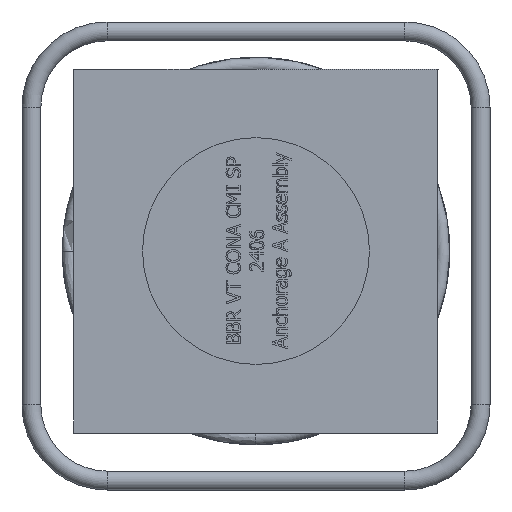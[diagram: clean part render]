
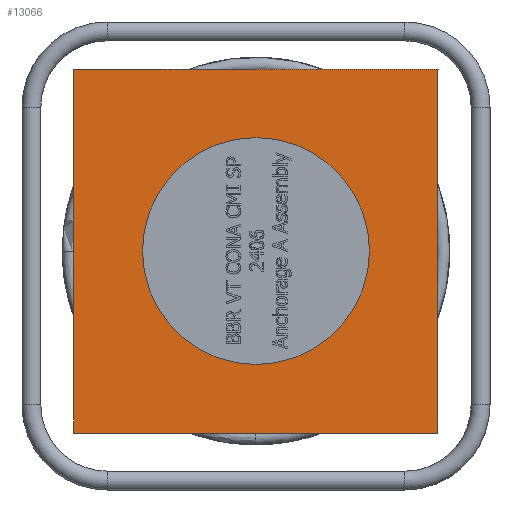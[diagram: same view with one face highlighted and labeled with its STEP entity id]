
A CAD part, left-side view. The second image highlights one B-rep face of the part: STEP entity #13066.
In plain terms, the highlighted planar face has unit normal (-1, 0, 0).
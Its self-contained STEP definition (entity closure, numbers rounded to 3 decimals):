
#1959=LINE('',#26864,#3031);
#1963=LINE('',#26871,#3035);
#1966=LINE('',#26876,#3038);
#1969=LINE('',#26880,#3041);
#3031=VECTOR('',#15571,385.);
#3035=VECTOR('',#15577,385.);
#3038=VECTOR('',#15582,385.);
#3041=VECTOR('',#15587,385.);
#3362=PLANE('',#13557);
#3537=FACE_BOUND('',#5060,.T.);
#4235=FACE_OUTER_BOUND('',#5059,.T.);
#5059=EDGE_LOOP('',(#11592,#11593,#11594,#11595));
#5060=EDGE_LOOP('',(#11596));
#5152=CIRCLE('',#13519,120.);
#6335=VERTEX_POINT('',#22957);
#6360=VERTEX_POINT('',#26862);
#6361=VERTEX_POINT('',#26863);
#6363=VERTEX_POINT('',#26870);
#6364=VERTEX_POINT('',#26875);
#8076=EDGE_CURVE('',#6335,#6335,#5152,.T.);
#8103=EDGE_CURVE('',#6360,#6361,#1959,.T.);
#8107=EDGE_CURVE('',#6361,#6363,#1963,.T.);
#8110=EDGE_CURVE('',#6363,#6364,#1966,.T.);
#8113=EDGE_CURVE('',#6364,#6360,#1969,.T.);
#11592=ORIENTED_EDGE('',*,*,#8113,.T.);
#11593=ORIENTED_EDGE('',*,*,#8103,.T.);
#11594=ORIENTED_EDGE('',*,*,#8107,.T.);
#11595=ORIENTED_EDGE('',*,*,#8110,.T.);
#11596=ORIENTED_EDGE('',*,*,#8076,.T.);
#13066=ADVANCED_FACE('',(#4235,#3537),#3362,.F.);
#13519=AXIS2_PLACEMENT_3D('',#22958,#15495,#15496);
#13557=AXIS2_PLACEMENT_3D('',#26882,#15589,#15590);
#15495=DIRECTION('center_axis',(1.,0.,0.));
#15496=DIRECTION('ref_axis',(0.,0.,
1.));
#15571=DIRECTION('',(0.,0.,-1.));
#15577=DIRECTION('',(0.,-1.,0.));
#15582=DIRECTION('',(0.,0.,1.));
#15587=DIRECTION('',(0.,1.,0.));
#15589=DIRECTION('center_axis',(1.,0.,0.));
#15590=DIRECTION('ref_axis',(0.,0.,1.));
#22957=CARTESIAN_POINT('',(-112.151,-120.,5.253));
#22958=CARTESIAN_POINT('Origin',(-112.151,0.,
5.253));
#26862=CARTESIAN_POINT('',(-112.151,192.5,197.753));
#26863=CARTESIAN_POINT('',(-112.151,192.5,-187.247));
#26864=CARTESIAN_POINT('',(-112.151,192.5,197.753));
#26870=CARTESIAN_POINT('',(-112.151,-192.5,-187.247));
#26871=CARTESIAN_POINT('',(-112.151,192.5,-187.247));
#26875=CARTESIAN_POINT('',(-112.151,-192.5,197.753));
#26876=CARTESIAN_POINT('',(-112.151,-192.5,-187.247));
#26880=CARTESIAN_POINT('',(-112.151,-192.5,197.753));
#26882=CARTESIAN_POINT('Origin',(-112.151,0.,5.253));
